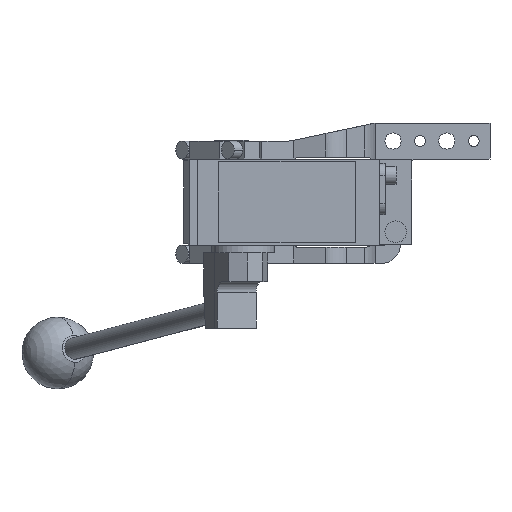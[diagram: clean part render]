
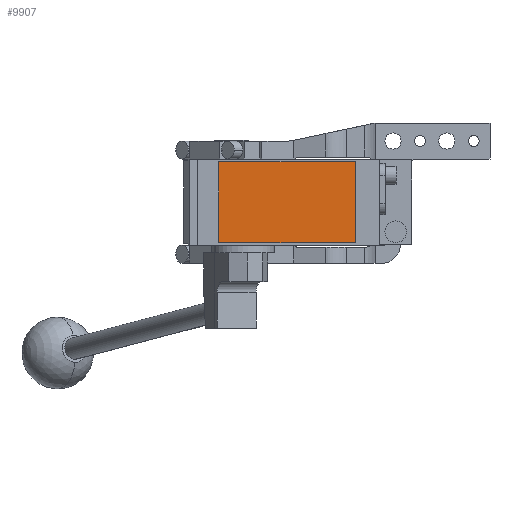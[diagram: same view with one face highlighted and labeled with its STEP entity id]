
A CAD part, front view. The second image highlights one B-rep face of the part: STEP entity #9907.
In plain terms, the highlighted planar face has unit normal (0, -1, 0).
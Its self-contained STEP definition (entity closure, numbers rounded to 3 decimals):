
#309 = DIRECTION ( 'NONE',  ( 1., 0., 0. ) ) ;
#423 = LINE ( 'NONE', #1623, #7083 ) ;
#858 = DIRECTION ( 'NONE',  ( 0., 0., -1. ) ) ;
#1069 = ORIENTED_EDGE ( 'NONE', *, *, #11341, .T. ) ;
#1233 = CARTESIAN_POINT ( 'NONE',  ( 69., -280.5, -22.5 ) ) ;
#1322 = CARTESIAN_POINT ( 'NONE',  ( -7., -280.5, -22.5 ) ) ;
#1623 = CARTESIAN_POINT ( 'NONE',  ( -7., -280.5, 22.5 ) ) ;
#1838 = CARTESIAN_POINT ( 'NONE',  ( 0., -280.5, 0. ) ) ;
#3064 = ORIENTED_EDGE ( 'NONE', *, *, #4620, .T. ) ;
#3206 = FACE_OUTER_BOUND ( 'NONE', #12087, .T. ) ;
#3459 = LINE ( 'NONE', #10645, #3976 ) ;
#3976 = VECTOR ( 'NONE', #14085, 1000. ) ;
#4620 = EDGE_CURVE ( 'NONE', #14464, #7924, #423, .T. ) ;
#5055 = VECTOR ( 'NONE', #309, 1000. ) ;
#5056 = EDGE_CURVE ( 'NONE', #7924, #11948, #14315, .T. ) ;
#6244 = DIRECTION ( 'NONE',  ( 0., 0., -1. ) ) ;
#6509 = ORIENTED_EDGE ( 'NONE', *, *, #5056, .T. ) ;
#7083 = VECTOR ( 'NONE', #6244, 1000. ) ;
#7717 = CARTESIAN_POINT ( 'NONE',  ( -7., -280.5, 22.5 ) ) ;
#7924 = VERTEX_POINT ( 'NONE', #1322 ) ;
#8342 = AXIS2_PLACEMENT_3D ( 'NONE', #1838, #10086, #858 ) ;
#8351 = DIRECTION ( 'NONE',  ( -1., 0., 0. ) ) ;
#9189 = EDGE_CURVE ( 'NONE', #11038, #14464, #9476, .T. ) ;
#9271 = ORIENTED_EDGE ( 'NONE', *, *, #9189, .T. ) ;
#9476 = LINE ( 'NONE', #14131, #12320 ) ;
#9907 = ADVANCED_FACE ( 'NONE', ( #3206 ), #12366, .T. ) ;
#10086 = DIRECTION ( 'NONE',  ( 0., -1., 0. ) ) ;
#10645 = CARTESIAN_POINT ( 'NONE',  ( 69., -280.5, 22.5 ) ) ;
#11038 = VERTEX_POINT ( 'NONE', #13941 ) ;
#11341 = EDGE_CURVE ( 'NONE', #11948, #11038, #3459, .T. ) ;
#11948 = VERTEX_POINT ( 'NONE', #1233 ) ;
#12087 = EDGE_LOOP ( 'NONE', ( #3064, #6509, #1069, #9271 ) ) ;
#12320 = VECTOR ( 'NONE', #8351, 1000. ) ;
#12366 = PLANE ( 'NONE',  #8342 ) ;
#13941 = CARTESIAN_POINT ( 'NONE',  ( 69., -280.5, 22.5 ) ) ;
#14085 = DIRECTION ( 'NONE',  ( 0., 0., 1. ) ) ;
#14131 = CARTESIAN_POINT ( 'NONE',  ( -7., -280.5, 22.5 ) ) ;
#14315 = LINE ( 'NONE', #14384, #5055 ) ;
#14384 = CARTESIAN_POINT ( 'NONE',  ( -7., -280.5, -22.5 ) ) ;
#14464 = VERTEX_POINT ( 'NONE', #7717 ) ;
